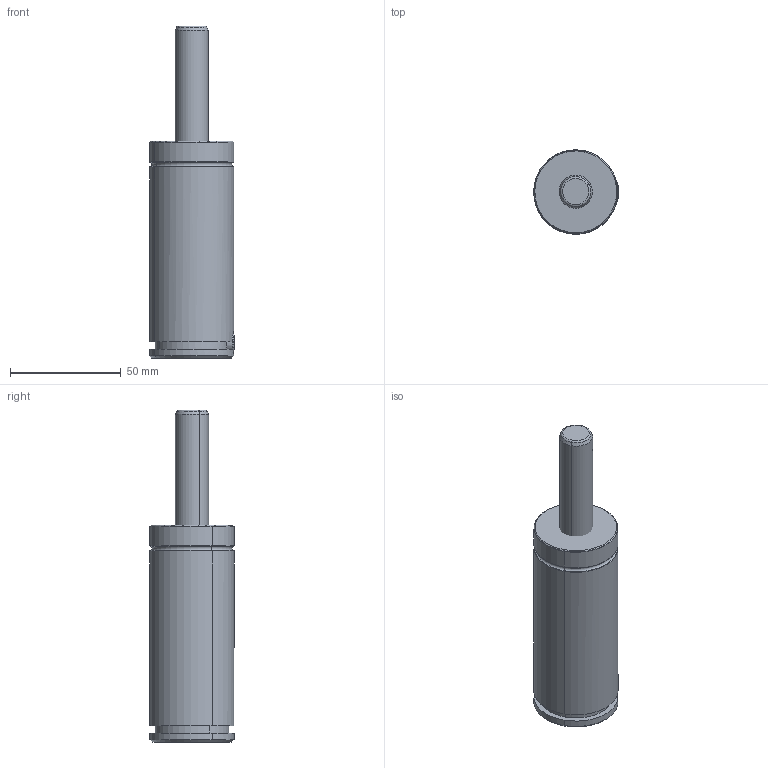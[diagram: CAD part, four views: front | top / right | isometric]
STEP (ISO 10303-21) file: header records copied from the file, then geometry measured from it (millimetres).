
FILE_DESCRIPTION(('CATIA V5 STEP Exchange'),'2;1');
FILE_NAME('W:\CATALOGO GENERAL 2018\FICHEROS CAD\004-TPS\TPS 250.1\TPS 250x50.1.stp','2017-10-31T14:10:03+00:00',('none'),('none'),'CATIA Version 5 Release 17 (IN-10)','CATIA V5 STEP AP203','none');
FILE_SCHEMA(('CONFIG_CONTROL_DESIGN'));
Length unit declared in the file: millimetre
Products named in the file (1): TPS 250x50.1
Assembly tree (3 placements, depth 2):
  TPS 250x50.1
    #56
    #1575
    #2137
Bounding box: 38.22 x 37.99 x 150 mm (x, y, z)
Volume: 126818.5 mm3; surface area: 21849.1 mm2
Topology: 3 solids, 3 shells, 150 faces, 333 edges, 188 vertices
Faces by surface type: cone 46, torus 40, cylinder 37, plane 19, bspline 8
Entity records: 3976 total; most frequent: CARTESIAN_POINT 988, ORIENTED_EDGE 646, DIRECTION 470, EDGE_CURVE 323, AXIS2_PLACEMENT_3D 277, VERTEX_POINT 188, CIRCLE 182, EDGE_LOOP 159
